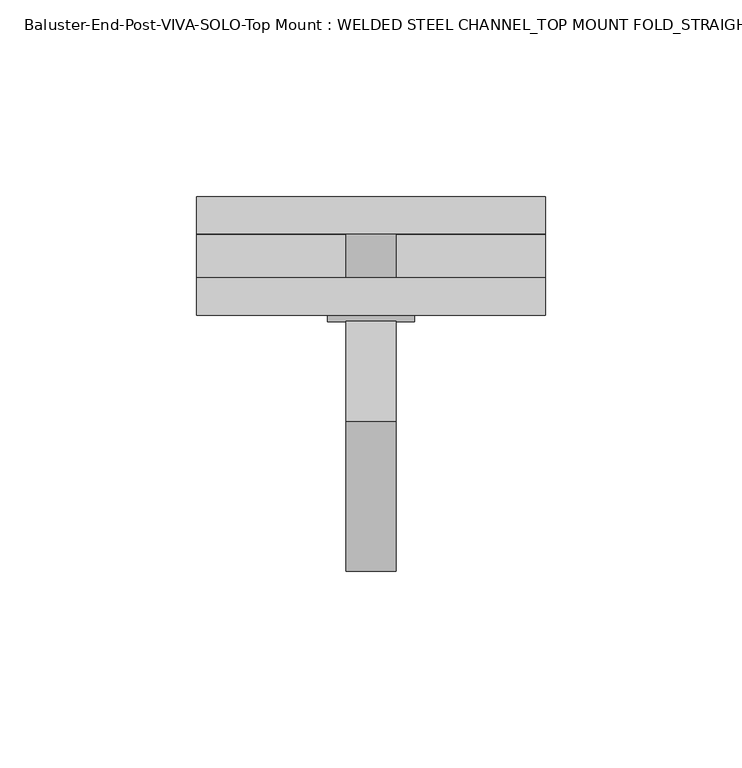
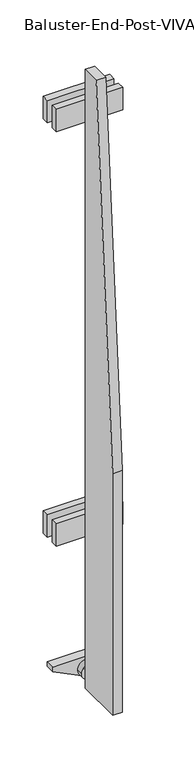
"""IFC4 building model written with IfcOpenShell, lengths in millimetres: proxy geometry, Baluster-End-Post-VIVA-SOLO-Top Mount : WELDED STEEL CHANNEL_TOP MOUNT FOLD_STRAIGHT."""

from ifc_helpers import new_model, si_unit, point, frame, frame_2d, origin, place, context, project, spatial, polyline, circle_curve, trimmed, segment, composite_curve, outline, extrude, source, transform, mapped, element, save


def baluster_end_post_viva_solo_top_mount_welded_steel_channel_5e72ad2b(model_context):
    return source(origin(), model_context, "Body", "SweptSolid", [
        extrude(outline(polyline([(-52.1175389, 914.8205071), (-52.1175389, 39.165025), (-115.6175389, 39.165025), (-115.6175389, 381.4205071), (-77.5175389, 914.8205071), (-52.1175389, 914.8205071)])), frame((146.05, 0.0, 0.0), z_axis=(1.0, 0.0, 0.0), x_axis=(0.0, 1.0, 0.0)), (0.0, 0.0, 1.0), 12.7),
        extrude(outline(composite_curve([segment(trimmed(circle_curve(frame_2d((268.5208758, 152.4)), 6.35), [point((268.5208758, 146.05))], [point((268.5208758, 158.75))], False, "CARTESIAN"), True, "CONTINUOUS"), segment(trimmed(circle_curve(frame_2d((268.5208758, 152.4)), 6.35), [point((268.5208758, 158.75))], [point((268.5208758, 146.05))], False, "CARTESIAN"), True, "CONTINUOUS")], self_intersect=False)), frame((0.0, -42.5925389, 0.0), z_axis=(0.0, 1.0, 0.0), x_axis=(0.0, 0.0, 1.0)), (0.0, 0.0, 1.0), 12.7),
        extrude(outline(composite_curve([segment(trimmed(circle_curve(frame_2d((854.776764, 152.4)), 6.35), [point((854.776764, 146.05))], [point((854.776764, 158.75))], False, "CARTESIAN"), True, "CONTINUOUS"), segment(trimmed(circle_curve(frame_2d((854.776764, 152.4)), 6.35), [point((854.776764, 158.75))], [point((854.776764, 146.05))], False, "CARTESIAN"), True, "CONTINUOUS")], self_intersect=False)), frame((0.0, -42.5925389, 0.0), z_axis=(0.0, 1.0, 0.0), x_axis=(0.0, 0.0, 1.0)), (0.0, 0.0, 1.0), 12.7),
        extrude(outline(composite_curve([segment(trimmed(circle_curve(frame_2d((60.8777263, 152.4)), 11.1125), [point((60.8777263, 141.2875))], [point((60.8777263, 163.5125))], False, "CARTESIAN"), True, "CONTINUOUS"), segment(trimmed(circle_curve(frame_2d((60.8777263, 152.4)), 11.1125), [point((60.8777263, 163.5125))], [point((60.8777263, 141.2875))], False, "CARTESIAN"), True, "CONTINUOUS")], self_intersect=False)), frame((0.0, -52.1175389, 0.0), z_axis=(0.0, 1.0, 0.0), x_axis=(0.0, 0.0, 1.0)), (0.0, 0.0, 1.0), 25.4),
        extrude(outline(polyline([(196.85, -20.3675389), (196.85, -29.8925389), (107.95, -29.8925389), (107.95, -20.3675389), (196.85, -20.3675389)])), frame((0.0, 0.0, 838.7824344), z_axis=(0.0, 0.0, 1.0), x_axis=(1.0, 0.0, 0.0)), (0.0, 0.0, 1.0), 31.75),
        extrude(outline(polyline([(196.85, -20.3675389), (196.85, -29.8925389), (107.95, -29.8925389), (107.95, -20.3675389), (196.85, -20.3675389)])), frame((0.0, 0.0, 252.4484609), z_axis=(0.0, 0.0, 1.0), x_axis=(1.0, 0.0, 0.0)), (0.0, 0.0, 1.0), 31.75),
        extrude(outline(polyline([(70.3302675, 107.95), (48.4156188, 152.4), (70.3302675, 196.85), (76.6802675, 196.85), (76.6802675, 107.95), (70.3302675, 107.95)])), frame((0.0, -42.5925389, 0.0), z_axis=(0.0, 1.0, 0.0), x_axis=(0.0, 0.0, 1.0)), (0.0, 0.0, 1.0), 12.7),
        extrude(outline(polyline([(196.85, -40.984781), (196.85, -50.509781), (107.95, -50.509781), (107.95, -40.984781), (196.85, -40.984781)])), frame((0.0, 0.0, 838.7824344), z_axis=(0.0, 0.0, 1.0), x_axis=(1.0, 0.0, 0.0)), (0.0, 0.0, 1.0), 31.75),
        extrude(outline(polyline([(196.85, -40.984781), (196.85, -50.509781), (107.95, -50.509781), (107.95, -40.984781), (196.85, -40.984781)])), frame((0.0, 0.0, 252.4484609), z_axis=(0.0, 0.0, 1.0), x_axis=(1.0, 0.0, 0.0)), (0.0, 0.0, 1.0), 31.75),
    ])


if __name__ == "__main__":
    model = new_model("IFC4")
    model_context = context("Model", 3, world=origin())
    ifc_project = project(units=[si_unit("LENGTHUNIT", "METRE", prefix="MILLI")], contexts=[model_context])
    site = spatial("IfcSite", under=ifc_project)
    building = spatial("IfcBuilding", under=site)
    placement = place(None, origin())
    baluster_end_post_viva_solo_top_mount_welded_steel_channel_shape = baluster_end_post_viva_solo_top_mount_welded_steel_channel_5e72ad2b(model_context)
    element("IfcBuildingElementProxy", 1, Name="Baluster-End-Post-VIVA-SOLO-Top Mount : WELDED STEEL CHANNEL_TOP MOUNT FOLD_STRAIGHT", ObjectType="Baluster-End-Post-VIVA-SOLO-Top Mount : WELDED STEEL CHANNEL_TOP MOUNT FOLD_STRAIGHT", at=placement, inside=building, context=model_context, shape_type="MappedRepresentation", body=[
        mapped(baluster_end_post_viva_solo_top_mount_welded_steel_channel_shape, transform((0.0, 0.0, 0.0), x_axis=(1.0, 0.0, 0.0), y_axis=(0.0, 1.0, 0.0), z_axis=(0.0, 0.0, 1.0))),
    ])
    save(model, "model.ifc")
